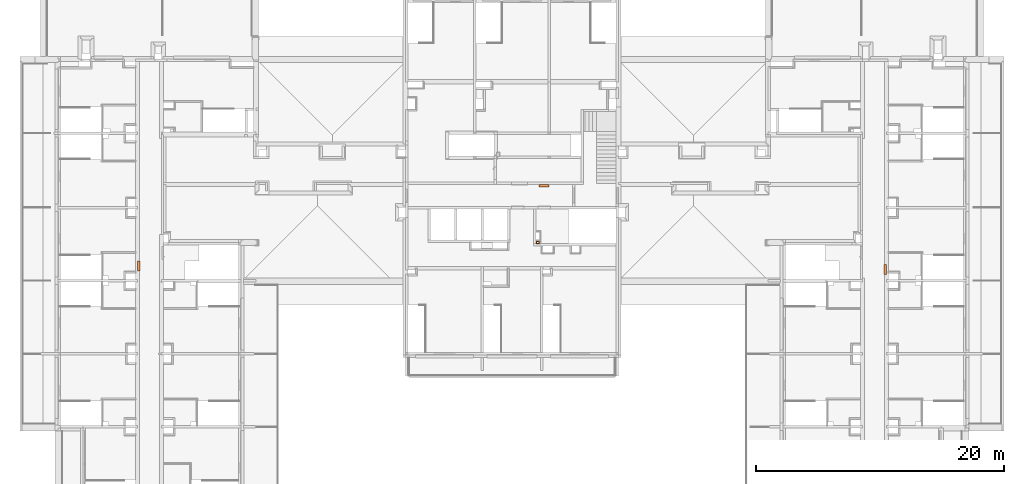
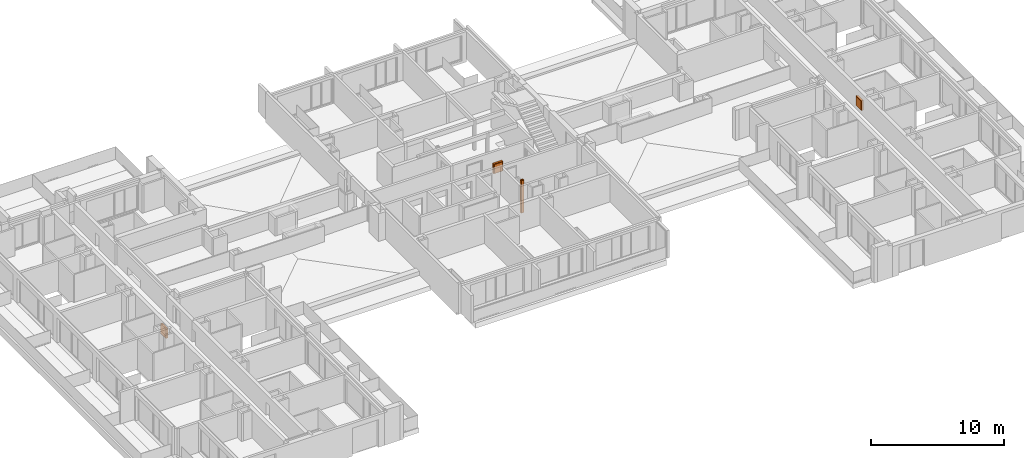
# One storey, part 11 of 30: 4 proxies.
"""IFC2X3 building model written with IfcOpenShell, lengths in millimetres."""

import ifcopenshell
import ifcopenshell.guid

model = None  # the IFC model being written
_history = None  # IfcOwnerHistory: only IFC2X3 demands one
_inside = {}  # id of a spatial element -> (the spatial element, [elements in it])
_under = {}  # id of a project, library or spatial element -> (it, [spatial elements below it])
_declared = {}  # id of a project -> (the project, [libraries it declares])
_typed = {}  # id of a type object -> (the type object, [elements of that type])
_made_of = {}  # id of a material, layer set ... -> (it, [elements and type objects made of it])


def new_model(schema):
    """Start an empty IFC model of exactly this schema.

    Asked for "IFC4X3", IfcOpenShell would pick the latest addendum, in which some entities
    have other attributes; the version numbers below select the first issue.
    IFC2X3 requires an IfcOwnerHistory on every rooted entity: one is made here for all.
    """
    global model, _history
    if schema == "IFC4X3":
        model = ifcopenshell.file(schema_version=(4, 3, 0, 0))
    else:
        model = ifcopenshell.file(schema=schema)
    _inside.clear()
    _under.clear()
    _declared.clear()
    _typed.clear()
    _made_of.clear()
    _history = None
    if model.schema == "IFC2X3":
        org = make("IfcOrganization", Name="unknown")
        user = make(
            "IfcPersonAndOrganization",
            ThePerson=make("IfcPerson", FamilyName="unknown"),
            TheOrganization=org,
        )
        app = make(
            "IfcApplication",
            ApplicationDeveloper=org,
            Version="unknown",
            ApplicationFullName="unknown",
            ApplicationIdentifier="unknown",
        )
        _history = make(
            "IfcOwnerHistory",
            OwningUser=user,
            OwningApplication=app,
            ChangeAction="ADDED",
            CreationDate=0,
        )
    return model


def make(cls, **values):
    """One entity of the class cls with the attributes given. An attribute that is None is left unset."""
    return model.create_entity(
        cls, **{name: value for name, value in values.items() if value is not None}
    )


def entity(cls, *values):
    """Any entity or typed value of the class cls, its attributes in the order of the schema. None: left unset."""
    e = model.create_entity(cls)
    for i, value in enumerate(values):
        if value is not None:
            e[i] = value
    return e


def rooted(cls, **values):
    """An entity with a GlobalId (a new one), such as an element, a storey or a relation."""
    return make(cls, GlobalId=ifcopenshell.guid.new(), OwnerHistory=_history, **values)


def si_unit(unit_type, name, prefix=None):
    """IfcSIUnit, for example si_unit("LENGTHUNIT", "METRE", prefix="MILLI")."""
    return make("IfcSIUnit", UnitType=unit_type, Prefix=prefix, Name=name)


def converted_unit(unit_type, name, factor, base, dimensions=None, offset=None):
    """IfcConversionBasedUnit, such as the inch: factor (a typed value) times the base unit."""
    return make(
        "IfcConversionBasedUnit"
        if offset is None
        else "IfcConversionBasedUnitWithOffset",
        ConversionOffset=offset,
        Dimensions=None
        if dimensions is None
        else entity("IfcDimensionalExponents", *dimensions),
        UnitType=unit_type,
        Name=name,
        ConversionFactor=make(
            "IfcMeasureWithUnit", ValueComponent=factor, UnitComponent=base
        ),
    )


def derived_unit(unit_type, elements):
    """IfcDerivedUnit: a product of units, each with its exponent."""
    return make(
        "IfcDerivedUnit",
        Elements=[
            make("IfcDerivedUnitElement", Unit=unit, Exponent=power)
            for unit, power in elements
        ],
        UnitType=unit_type,
    )


def money_unit(currency):
    """IfcMonetaryUnit."""
    return make("IfcMonetaryUnit", Currency=currency)


def assignment(units):
    """IfcUnitAssignment: the units of a project."""
    return None if units is None else make("IfcUnitAssignment", Units=units)


def point(xyz):
    """IfcCartesianPoint."""
    return None if xyz is None else make("IfcCartesianPoint", Coordinates=xyz)


def direction(xyz):
    """IfcDirection."""
    return None if xyz is None else make("IfcDirection", DirectionRatios=xyz)


def frame(location, z_axis=None, x_axis=None):
    """IfcAxis2Placement3D, a coordinate frame: its origin and axes. An axis left out is left unset."""
    return make(
        "IfcAxis2Placement3D",
        Location=point(location),
        Axis=direction(z_axis),
        RefDirection=direction(x_axis),
    )


def origin_with_axes():
    """The frame at (0, 0, 0) with the z axis (0, 0, 1) and the x axis (1, 0, 0) written out."""
    return frame((0.0, 0.0, 0.0), z_axis=(0.0, 0.0, 1.0), x_axis=(1.0, 0.0, 0.0))


def place(relative_to, where):
    """IfcLocalPlacement: puts the frame where relative to a parent placement (None: the world)."""
    return make(
        "IfcLocalPlacement", PlacementRelTo=relative_to, RelativePlacement=where
    )


def context(
    kind, dimensions, precision=None, world=None, true_north=None, identifier=None
):
    """IfcGeometricRepresentationContext, for example the 3D "Model" context."""
    return make(
        "IfcGeometricRepresentationContext",
        ContextIdentifier=identifier,
        ContextType=kind,
        CoordinateSpaceDimension=dimensions,
        Precision=precision,
        WorldCoordinateSystem=world,
        TrueNorth=true_north,
    )


def subcontext(parent, identifier, kind, view, scale=None):
    """IfcGeometricRepresentationSubContext, for example "Body" below "Model"."""
    return make(
        "IfcGeometricRepresentationSubContext",
        ContextIdentifier=identifier,
        ContextType=kind,
        ParentContext=parent,
        TargetScale=scale,
        TargetView=view,
    )


def project(units=None, contexts=None):
    """IfcProject with its units and contexts."""
    return rooted(
        "IfcProject",
        Name="project",
        RepresentationContexts=contexts,
        UnitsInContext=assignment(units),
    )


def spatial(cls, under=None, at=None, **own):
    """A site, building, storey or space (cls), placed at a placement, below another one or the project."""
    s = rooted(cls, ObjectPlacement=at, **own)
    if under is not None:
        _under.setdefault(under.id(), (under, []))[1].append(s)
    return s


def faces_of(points, faces, orient=None, outer=None):
    """IfcFace entities. A face is a list of loops; a loop is a list of indices into points, from 0.

    orient and outer hold one flag for each loop. By default every Orientation is true, the
    first loop of a face is its IfcFaceOuterBound and the others are IfcFaceBound.
    """
    made = []
    for i, loops in enumerate(faces):
        bounds = []
        for j, loop in enumerate(loops):
            is_outer = j == 0 if outer is None else outer[i][j]
            bounds.append(
                make(
                    "IfcFaceOuterBound" if is_outer else "IfcFaceBound",
                    Bound=make("IfcPolyLoop", Polygon=[points[k] for k in loop]),
                    Orientation=True if orient is None else orient[i][j],
                )
            )
        made.append(make("IfcFace", Bounds=bounds))
    return made


def faceted_brep(points, faces, orient=None, outer=None, voids=None):
    """IfcFacetedBrep: a solid bounded by flat faces; with voids (closed shells), ...WithVoids."""
    shared = [point(p) for p in points]
    hull = make("IfcClosedShell", CfsFaces=faces_of(shared, faces, orient, outer))
    if voids is None:
        return make("IfcFacetedBrep", Outer=hull)
    return make(
        "IfcFacetedBrepWithVoids",
        Outer=hull,
        Voids=[
            make(cls, CfsFaces=faces_of(shared, fs, o, b)) for cls, fs, o, b in voids
        ],
    )


def shape(context_of_items, identifier, shape_type, items):
    """IfcShapeRepresentation: the items that make up one representation, for example the "Body"."""
    return make(
        "IfcShapeRepresentation",
        ContextOfItems=context_of_items,
        RepresentationIdentifier=identifier,
        RepresentationType=shape_type,
        Items=items,
    )


def source(mapping_origin, context_of_items, identifier, shape_type, items):
    """IfcRepresentationMap: a shape defined once, which mapped items show again and again."""
    return make(
        "IfcRepresentationMap",
        MappingOrigin=mapping_origin,
        MappedRepresentation=shape(context_of_items, identifier, shape_type, items),
    )


def transform(
    local_origin,
    x_axis=None,
    y_axis=None,
    z_axis=None,
    scale=None,
    scale2=None,
    scale3=None,
    uniform=True,
):
    """IfcCartesianTransformationOperator3D, or its non-uniform kind. x_axis, y_axis, z_axis: its Axis1, 2, 3."""
    if uniform:
        return make(
            "IfcCartesianTransformationOperator3D",
            Axis1=direction(x_axis),
            Axis2=direction(y_axis),
            LocalOrigin=point(local_origin),
            Scale=scale,
            Axis3=direction(z_axis),
        )
    return make(
        "IfcCartesianTransformationOperator3DnonUniform",
        Axis1=direction(x_axis),
        Axis2=direction(y_axis),
        LocalOrigin=point(local_origin),
        Scale=scale,
        Axis3=direction(z_axis),
        Scale2=scale2,
        Scale3=scale3,
    )


def mapped(mapping_source, mapping_target):
    """IfcMappedItem: shows the shape of a source again, moved by a transform."""
    return make(
        "IfcMappedItem", MappingSource=mapping_source, MappingTarget=mapping_target
    )


def made_of(thing, what):
    """Note that an element or type object is made of a material, layer set ...; save() writes the relation."""
    if what is not None:
        _made_of.setdefault(what.id(), (what, []))[1].append(thing)
    return thing


def type_object(cls, material=None, **own):
    """A type object (cls), such as IfcWallType, which elements share."""
    return made_of(rooted(cls, **own), material)


def element(
    cls,
    number,
    at=None,
    inside=None,
    cuts=None,
    type_object=None,
    material=None,
    context=None,
    identifier="Body",
    shape_type=None,
    held_by="IfcProductDefinitionShape",
    body=None,
    shapes=None,
    **own,
):
    """One element of the class cls, such as IfcWall. Its Tag is "e" and its number.

    at: its placement. inside: the storey or other place that contains it. cuts: it is an
    opening in that element (IfcRelVoidsElement). A single representation is given by context,
    identifier, shape_type and body (its items); several are given by shapes. held_by: the class
    of the entity that holds the representations. save() writes the other relations.
    """
    e = rooted(cls, Tag="e%d" % number, ObjectPlacement=at, **own)
    if body is not None:
        shapes = [shape(context, identifier, shape_type, body)]
    if shapes is not None:
        e.Representation = make(held_by, Representations=shapes)
    if inside is not None:
        _inside.setdefault(inside.id(), (inside, []))[1].append(e)
    if cuts is not None:
        rooted(
            "IfcRelVoidsElement", RelatingBuildingElement=cuts, RelatedOpeningElement=e
        )
    if type_object is not None:
        _typed.setdefault(type_object.id(), (type_object, []))[1].append(e)
    return made_of(e, material)


def aggregate(whole, parts):
    """IfcRelAggregates: a whole, such as a stair, and the parts it consists of."""
    return rooted("IfcRelAggregates", RelatingObject=whole, RelatedObjects=parts)


def save(model, path):
    """Write the relations noted so far, then the file.

    IfcRelAggregates (storeys below a building ...), IfcRelContainedInSpatialStructure (elements
    in a storey), IfcRelDefinesByType, IfcRelAssociatesMaterial and IfcRelDeclares: one each for
    every whole, place, type object, material and project.
    """
    for whole, parts in _under.values():
        aggregate(whole, parts)
    for where, things in _inside.values():
        rooted(
            "IfcRelContainedInSpatialStructure",
            RelatedElements=things,
            RelatingStructure=where,
        )
    for kind, things in _typed.values():
        rooted("IfcRelDefinesByType", RelatedObjects=things, RelatingType=kind)
    for what, things in _made_of.values():
        rooted("IfcRelAssociatesMaterial", RelatedObjects=things, RelatingMaterial=what)
    for by, libraries in _declared.values():
        rooted("IfcRelDeclares", RelatingContext=by, RelatedDefinitions=libraries)
    model.write(path)


model = new_model("IFC2X3")

# Units and contexts
model_context = context("Model", 3, precision=0.01, world=origin_with_axes(), true_north=direction((0.34421633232, 0.938890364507)))
body_context = subcontext(model_context, "Body", "Model", "MODEL_VIEW")
ifc_project = project(units=[si_unit("LENGTHUNIT", "METRE", prefix="MILLI"), si_unit("AREAUNIT", "SQUARE_METRE"), si_unit("VOLUMEUNIT", "CUBIC_METRE"), converted_unit("PLANEANGLEUNIT", "DEGREE", entity("IfcPlaneAngleMeasure", 0.0174532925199), si_unit("PLANEANGLEUNIT", "RADIAN"), dimensions=[0, 0, 0, 0, 0, 0, 0]), si_unit("SOLIDANGLEUNIT", "STERADIAN"), money_unit("USD"), converted_unit("TIMEUNIT", "Year", entity("IfcTimeMeasure", 31556926.0), si_unit("TIMEUNIT", "SECOND"), dimensions=[0, 0, 1, 0, 0, 0, 0]), si_unit("MASSUNIT", "GRAM", prefix="KILO"), si_unit("THERMODYNAMICTEMPERATUREUNIT", "DEGREE_CELSIUS"), si_unit("LUMINOUSINTENSITYUNIT", "LUMEN"), si_unit("ENERGYUNIT", "JOULE", prefix="MEGA"), derived_unit("THERMALCONDUCTANCEUNIT", [(si_unit("POWERUNIT", "WATT"), 1), (si_unit("LENGTHUNIT", "METRE"), -1), (si_unit("THERMODYNAMICTEMPERATUREUNIT", "KELVIN"), -1)]), derived_unit("SPECIFICHEATCAPACITYUNIT", [(si_unit("ENERGYUNIT", "JOULE"), 1), (si_unit("MASSUNIT", "GRAM", prefix="KILO"), -1), (si_unit("THERMODYNAMICTEMPERATUREUNIT", "KELVIN"), -1)]), derived_unit("MASSDENSITYUNIT", [(si_unit("MASSUNIT", "GRAM", prefix="KILO"), 1), (si_unit("VOLUMEUNIT", "CUBIC_METRE"), -1)])], contexts=[model_context])

# Site, building, storey
site_placement = place(None, origin_with_axes())
site = spatial("IfcSite", under=ifc_project, at=site_placement, Name="USTRONIE MORSKIE", CompositionType="ELEMENT")
building_placement = place(site_placement, origin_with_axes())
building = spatial("IfcBuilding", under=site, at=building_placement, Name="Budynek", CompositionType="ELEMENT")
storey_placement = place(building_placement, frame((0.0, 0.0, 16000.0), z_axis=(0.0, 0.0, 1.0), x_axis=(1.0, 0.0, 0.0)))
storey = spatial("IfcBuildingStorey", under=building, at=storey_placement, Name="ANTRESOLA - KOND. TECHNICZNA", CompositionType="ELEMENT", Elevation=16000.0)

# Proxies
building_element_proxy_type_1 = type_object("IfcBuildingElementProxyType", PredefinedType="NOTDEFINED")
shared_shape_1 = source(origin_with_axes(), body_context, "Body", "Brep", [
    faceted_brep([(0.0, 0.0, 0.0), (200.0, 0.0, 0.0), (200.0, 0.0, 2970.0), (0.0, 0.0, 2970.0), (0.0, 250.0, 0.0), (200.0, 250.0, 0.0), (40.0, 210.0, 0.0), (40.0, 40.0, 0.0), (160.0, 40.0, 0.0), (160.0, 210.0, 0.0), (200.0, 250.0, 2970.0), (0.0, 250.0, 2970.0), (40.0, 210.0, 2970.0), (160.0, 210.0, 2970.0), (160.0, 40.0, 2970.0), (40.0, 40.0, 2970.0)], [[[0, 1, 2, 3]], [[0, 4, 5, 1], [6, 7, 8, 9]], [[1, 5, 10, 2]], [[3, 2, 10, 11], [12, 13, 14, 15]], [[4, 0, 3, 11]], [[5, 4, 11, 10]], [[7, 6, 12, 15]], [[8, 7, 15, 14]], [[9, 8, 14, 13]], [[6, 9, 13, 12]]]),
])
proxy_1_placement = place(storey_placement, frame((389757.920919, 730101.199036, 0.0), z_axis=(0.0, 0.0, 1.0), x_axis=(0.0, -1.0, 0.0)))
element("IfcBuildingElementProxy", 1, at=proxy_1_placement, inside=storey, type_object=building_element_proxy_type_1, Name="Obiekt-007", context=body_context, shape_type="MappedRepresentation", body=[
    mapped(shared_shape_1, transform((0.0, 0.0, 0.0))),
])
building_element_proxy_type_2 = type_object("IfcBuildingElementProxyType", Name="Skrzynka P-Poż 23", PredefinedType="NOTDEFINED")
shared_shape_2 = source(origin_with_axes(), body_context, "Body", "Brep", [
    faceted_brep([(0.0, 40.0, 0.0), (800.0, 40.0, 0.0), (800.0, 20.0, 0.0), (0.0, 20.0, 0.0), (0.0, 40.0, 900.0), (800.0, 40.0, 900.0), (60.0, 40.0, 60.0), (740.0, 40.0, 60.0), (740.0, 40.0, 840.0), (60.0, 40.0, 840.0), (800.0, 20.0, 900.0), (0.0, 20.0, 900.0), (60.0, 20.0, 60.0), (60.0, 20.0, 840.0), (740.0, 20.0, 840.0), (740.0, 20.0, 60.0)], [[[0, 1, 2, 3]], [[0, 4, 5, 1], [6, 7, 8, 9]], [[1, 5, 10, 2]], [[3, 2, 10, 11], [12, 13, 14, 15]], [[4, 0, 3, 11]], [[5, 4, 11, 10]], [[7, 6, 12, 15]], [[8, 7, 15, 14]], [[9, 8, 14, 13]], [[6, 9, 13, 12]]]),
    faceted_brep([(40.0, 20.0, 40.0), (760.0, 20.0, 40.0), (760.0, 0.0, 40.0), (40.0, 0.0, 40.0), (40.0, 20.0, 860.0), (760.0, 20.0, 860.0), (80.0, 20.0, 80.0), (720.0, 20.0, 80.0), (720.0, 20.0, 820.0), (80.0, 20.0, 820.0), (760.0, 0.0, 860.0), (40.0, 0.0, 860.0), (80.0, 0.0, 80.0), (80.0, 0.0, 820.0), (720.0, 0.0, 820.0), (720.0, 0.0, 80.0)], [[[0, 1, 2, 3]], [[0, 4, 5, 1], [6, 7, 8, 9]], [[1, 5, 10, 2]], [[3, 2, 10, 11], [12, 13, 14, 15]], [[4, 0, 3, 11]], [[5, 4, 11, 10]], [[7, 6, 12, 15]], [[8, 7, 15, 14]], [[9, 8, 14, 13]], [[6, 9, 13, 12]]]),
    faceted_brep([(0.0, 180.0, 0.0), (800.0, 180.0, 0.0), (800.0, 40.0, 0.0), (0.0, 40.0, 0.0), (0.0, 180.0, 900.0), (800.0, 180.0, 900.0), (20.0, 180.0, 20.0), (780.0, 180.0, 20.0), (780.0, 180.0, 880.0), (20.0, 180.0, 880.0), (800.0, 40.0, 900.0), (0.0, 40.0, 900.0), (20.0, 40.0, 20.0), (20.0, 40.0, 880.0), (780.0, 40.0, 880.0), (780.0, 40.0, 20.0)], [[[0, 1, 2, 3]], [[0, 4, 5, 1], [6, 7, 8, 9]], [[1, 5, 10, 2]], [[3, 2, 10, 11], [12, 13, 14, 15]], [[4, 0, 3, 11]], [[5, 4, 11, 10]], [[7, 6, 12, 15]], [[8, 7, 15, 14]], [[9, 8, 14, 13]], [[6, 9, 13, 12]]]),
    faceted_brep([(0.0, 200.0, 0.0), (800.0, 200.0, 0.0), (800.0, 180.0, 0.0), (0.0, 180.0, 0.0), (0.0, 200.0, 900.0), (800.0, 200.0, 900.0), (800.0, 180.0, 900.0), (0.0, 180.0, 900.0)], [[[0, 1, 2, 3]], [[0, 4, 5, 1]], [[1, 5, 6, 2]], [[3, 2, 6, 7]], [[4, 0, 3, 7]], [[5, 4, 7, 6]]]),
    faceted_brep([(80.0, 15.0, 80.0), (720.0, 15.0, 80.0), (720.0, 5.0, 80.0), (80.0, 5.0, 80.0), (80.0, 15.0, 820.0), (720.0, 15.0, 820.0), (720.0, 5.0, 820.0), (80.0, 5.0, 820.0)], [[[0, 1, 2, 3]], [[0, 4, 5, 1]], [[1, 5, 6, 2]], [[3, 2, 6, 7]], [[4, 0, 3, 7]], [[5, 4, 7, 6]]]),
    faceted_brep([(749.659258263, 0.0, 447.411809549), (748.660254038, 0.0, 445.0), (747.071067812, 0.0, 442.928932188), (745.0, 0.0, 441.339745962), (742.588190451, 0.0, 440.340741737), (740.0, 0.0, 440.0), (737.411809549, 0.0, 440.340741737), (735.0, 0.0, 441.339745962), (732.928932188, 0.0, 442.928932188), (731.339745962, 0.0, 445.0), (730.340741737, 0.0, 447.411809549), (730.0, 0.0, 450.0), (730.340741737, 0.0, 452.588190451), (731.339745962, 0.0, 455.0), (732.928932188, 0.0, 457.071067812), (735.0, 0.0, 458.660254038), (737.411809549, 0.0, 459.659258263), (740.0, 0.0, 460.0), (742.588190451, 0.0, 459.659258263), (745.0, 0.0, 458.660254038), (747.071067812, 0.0, 457.071067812), (748.660254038, 0.0, 455.0), (749.659258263, 0.0, 452.588190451), (750.0, 0.0, 450.0), (749.659258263, -2.0, 447.411809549), (748.660254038, -2.0, 445.0), (747.071067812, -2.0, 442.928932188), (745.0, -2.0, 441.339745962), (742.588190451, -2.0, 440.340741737), (740.0, -2.0, 440.0), (737.411809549, -2.0, 440.340741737), (735.0, -2.0, 441.339745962), (732.928932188, -2.0, 442.928932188), (731.339745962, -2.0, 445.0), (730.340741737, -2.0, 447.411809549), (730.0, -2.0, 450.0), (730.340741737, -2.0, 452.588190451), (731.339745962, -2.0, 455.0), (732.928932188, -2.0, 457.071067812), (735.0, -2.0, 458.660254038), (737.411809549, -2.0, 459.659258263), (740.0, -2.0, 460.0), (742.588190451, -2.0, 459.659258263), (745.0, -2.0, 458.660254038), (747.071067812, -2.0, 457.071067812), (748.660254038, -2.0, 455.0), (749.659258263, -2.0, 452.588190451), (750.0, -2.0, 450.0)], [[[0, 1, 2, 3, 4, 5, 6, 7, 8, 9, 10, 11, 12, 13, 14, 15, 16, 17, 18, 19, 20, 21, 22, 23]], [[1, 0, 24, 25]], [[2, 1, 25, 26]], [[3, 2, 26, 27]], [[4, 3, 27, 28]], [[5, 4, 28, 29]], [[6, 5, 29, 30]], [[7, 6, 30, 31]], [[8, 7, 31, 32]], [[9, 8, 32, 33]], [[10, 9, 33, 34]], [[11, 10, 34, 35]], [[12, 11, 35, 36]], [[13, 12, 36, 37]], [[14, 13, 37, 38]], [[15, 14, 38, 39]], [[16, 15, 39, 40]], [[17, 16, 40, 41]], [[18, 17, 41, 42]], [[19, 18, 42, 43]], [[20, 19, 43, 44]], [[21, 20, 44, 45]], [[22, 21, 45, 46]], [[23, 22, 46, 47]], [[0, 23, 47, 24]], [[24, 47, 46, 45, 44, 43, 42, 41, 40, 39, 38, 37, 36, 35, 34, 33, 32, 31, 30, 29, 28, 27, 26, 25]]]),
    faceted_brep([(39.8977774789, 16.2235428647, 80.0), (39.5980762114, 15.5, 80.0), (39.1213203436, 14.8786796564, 80.0), (38.5, 14.4019237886, 80.0), (37.7764571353, 14.1022225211, 80.0), (37.0, 14.0, 80.0), (36.2235428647, 14.1022225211, 80.0), (35.5, 14.4019237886, 80.0), (34.8786796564, 14.8786796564, 80.0), (34.4019237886, 15.5, 80.0), (34.1022225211, 16.2235428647, 80.0), (34.0, 17.0, 80.0), (34.1022225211, 17.7764571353, 80.0), (34.4019237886, 18.5, 80.0), (34.8786796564, 19.1213203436, 80.0), (35.5, 19.5980762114, 80.0), (36.2235428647, 19.8977774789, 80.0), (37.0, 20.0, 80.0), (37.7764571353, 19.8977774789, 80.0), (38.5, 19.5980762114, 80.0), (39.1213203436, 19.1213203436, 80.0), (39.5980762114, 18.5, 80.0), (39.8977774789, 17.7764571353, 80.0), (40.0, 17.0, 80.0), (39.8977774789, 16.2235428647, 120.0), (39.5980762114, 15.5, 120.0), (39.1213203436, 14.8786796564, 120.0), (38.5, 14.4019237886, 120.0), (37.7764571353, 14.1022225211, 120.0), (37.0, 14.0, 120.0), (36.2235428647, 14.1022225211, 120.0), (35.5, 14.4019237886, 120.0), (34.8786796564, 14.8786796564, 120.0), (34.4019237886, 15.5, 120.0), (34.1022225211, 16.2235428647, 120.0), (34.0, 17.0, 120.0), (34.1022225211, 17.7764571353, 120.0), (34.4019237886, 18.5, 120.0), (34.8786796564, 19.1213203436, 120.0), (35.5, 19.5980762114, 120.0), (36.2235428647, 19.8977774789, 120.0), (37.0, 20.0, 120.0), (37.7764571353, 19.8977774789, 120.0), (38.5, 19.5980762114, 120.0), (39.1213203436, 19.1213203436, 120.0), (39.5980762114, 18.5, 120.0), (39.8977774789, 17.7764571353, 120.0), (40.0, 17.0, 120.0)], [[[0, 1, 2, 3, 4, 5, 6, 7, 8, 9, 10, 11, 12, 13, 14, 15, 16, 17, 18, 19, 20, 21, 22, 23]], [[1, 0, 24, 25]], [[2, 1, 25, 26]], [[3, 2, 26, 27]], [[4, 3, 27, 28]], [[5, 4, 28, 29]], [[6, 5, 29, 30]], [[7, 6, 30, 31]], [[8, 7, 31, 32]], [[9, 8, 32, 33]], [[10, 9, 33, 34]], [[11, 10, 34, 35]], [[12, 11, 35, 36]], [[13, 12, 36, 37]], [[14, 13, 37, 38]], [[15, 14, 38, 39]], [[16, 15, 39, 40]], [[17, 16, 40, 41]], [[18, 17, 41, 42]], [[19, 18, 42, 43]], [[20, 19, 43, 44]], [[21, 20, 44, 45]], [[22, 21, 45, 46]], [[23, 22, 46, 47]], [[0, 23, 47, 24]], [[24, 47, 46, 45, 44, 43, 42, 41, 40, 39, 38, 37, 36, 35, 34, 33, 32, 31, 30, 29, 28, 27, 26, 25]]]),
    faceted_brep([(39.8977774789, 16.2235428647, 780.0), (39.5980762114, 15.5, 780.0), (39.1213203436, 14.8786796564, 780.0), (38.5, 14.4019237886, 780.0), (37.7764571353, 14.1022225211, 780.0), (37.0, 14.0, 780.0), (36.2235428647, 14.1022225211, 780.0), (35.5, 14.4019237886, 780.0), (34.8786796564, 14.8786796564, 780.0), (34.4019237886, 15.5, 780.0), (34.1022225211, 16.2235428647, 780.0), (34.0, 17.0, 780.0), (34.1022225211, 17.7764571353, 780.0), (34.4019237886, 18.5, 780.0), (34.8786796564, 19.1213203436, 780.0), (35.5, 19.5980762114, 780.0), (36.2235428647, 19.8977774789, 780.0), (37.0, 20.0, 780.0), (37.7764571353, 19.8977774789, 780.0), (38.5, 19.5980762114, 780.0), (39.1213203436, 19.1213203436, 780.0), (39.5980762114, 18.5, 780.0), (39.8977774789, 17.7764571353, 780.0), (40.0, 17.0, 780.0), (39.8977774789, 16.2235428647, 820.0), (39.5980762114, 15.5, 820.0), (39.1213203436, 14.8786796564, 820.0), (38.5, 14.4019237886, 820.0), (37.7764571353, 14.1022225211, 820.0), (37.0, 14.0, 820.0), (36.2235428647, 14.1022225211, 820.0), (35.5, 14.4019237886, 820.0), (34.8786796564, 14.8786796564, 820.0), (34.4019237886, 15.5, 820.0), (34.1022225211, 16.2235428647, 820.0), (34.0, 17.0, 820.0), (34.1022225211, 17.7764571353, 820.0), (34.4019237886, 18.5, 820.0), (34.8786796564, 19.1213203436, 820.0), (35.5, 19.5980762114, 820.0), (36.2235428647, 19.8977774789, 820.0), (37.0, 20.0, 820.0), (37.7764571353, 19.8977774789, 820.0), (38.5, 19.5980762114, 820.0), (39.1213203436, 19.1213203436, 820.0), (39.5980762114, 18.5, 820.0), (39.8977774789, 17.7764571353, 820.0), (40.0, 17.0, 820.0)], [[[0, 1, 2, 3, 4, 5, 6, 7, 8, 9, 10, 11, 12, 13, 14, 15, 16, 17, 18, 19, 20, 21, 22, 23]], [[1, 0, 24, 25]], [[2, 1, 25, 26]], [[3, 2, 26, 27]], [[4, 3, 27, 28]], [[5, 4, 28, 29]], [[6, 5, 29, 30]], [[7, 6, 30, 31]], [[8, 7, 31, 32]], [[9, 8, 32, 33]], [[10, 9, 33, 34]], [[11, 10, 34, 35]], [[12, 11, 35, 36]], [[13, 12, 36, 37]], [[14, 13, 37, 38]], [[15, 14, 38, 39]], [[16, 15, 39, 40]], [[17, 16, 40, 41]], [[18, 17, 41, 42]], [[19, 18, 42, 43]], [[20, 19, 43, 44]], [[21, 20, 44, 45]], [[22, 21, 45, 46]], [[23, 22, 46, 47]], [[0, 23, 47, 24]], [[24, 47, 46, 45, 44, 43, 42, 41, 40, 39, 38, 37, 36, 35, 34, 33, 32, 31, 30, 29, 28, 27, 26, 25]]]),
])
proxy_2_placement = place(storey_placement, frame((417817.920919, 728201.202998, 1100.0), z_axis=(0.0, 0.0, 1.0), x_axis=(0.0, -1.0, 0.0)))
element("IfcBuildingElementProxy", 2, at=proxy_2_placement, inside=storey, type_object=building_element_proxy_type_2, Name="OB3", context=body_context, shape_type="MappedRepresentation", body=[
    mapped(shared_shape_2, transform((0.0, 0.0, 0.0))),
])
shared_shape_3 = source(origin_with_axes(), body_context, "Body", "Brep", [
    faceted_brep([(0.0, 40.0, 0.0), (0.0, 20.0, 0.0), (-800.0, 20.0, 0.0), (-800.0, 40.0, 0.0), (0.0, 40.0, 900.0), (0.0, 20.0, 900.0), (-800.0, 20.0, 900.0), (-60.0, 20.0, 60.0), (-740.0, 20.0, 60.0), (-740.0, 20.0, 840.0), (-60.0, 20.0, 840.0), (-800.0, 40.0, 900.0), (-60.0, 40.0, 60.0), (-60.0, 40.0, 840.0), (-740.0, 40.0, 840.0), (-740.0, 40.0, 60.0)], [[[0, 1, 2, 3]], [[4, 5, 1, 0]], [[1, 5, 6, 2], [7, 8, 9, 10]], [[3, 2, 6, 11]], [[0, 3, 11, 4], [12, 13, 14, 15]], [[11, 6, 5, 4]], [[15, 8, 7, 12]], [[14, 9, 8, 15]], [[13, 10, 9, 14]], [[12, 7, 10, 13]]]),
    faceted_brep([(-40.0, 20.0, 40.0), (-40.0, 0.0, 40.0), (-760.0, 0.0, 40.0), (-760.0, 20.0, 40.0), (-40.0, 20.0, 860.0), (-40.0, 0.0, 860.0), (-760.0, 0.0, 860.0), (-80.0, 0.0, 80.0), (-720.0, 0.0, 80.0), (-720.0, 0.0, 820.0), (-80.0, 0.0, 820.0), (-760.0, 20.0, 860.0), (-80.0, 20.0, 80.0), (-80.0, 20.0, 820.0), (-720.0, 20.0, 820.0), (-720.0, 20.0, 80.0)], [[[0, 1, 2, 3]], [[4, 5, 1, 0]], [[1, 5, 6, 2], [7, 8, 9, 10]], [[3, 2, 6, 11]], [[0, 3, 11, 4], [12, 13, 14, 15]], [[11, 6, 5, 4]], [[15, 8, 7, 12]], [[14, 9, 8, 15]], [[13, 10, 9, 14]], [[12, 7, 10, 13]]]),
    faceted_brep([(0.0, 180.0, 0.0), (0.0, 40.0, 0.0), (-800.0, 40.0, 0.0), (-800.0, 180.0, 0.0), (0.0, 180.0, 900.0), (0.0, 40.0, 900.0), (-800.0, 40.0, 900.0), (-20.0, 40.0, 20.0), (-780.0, 40.0, 20.0), (-780.0, 40.0, 880.0), (-20.0, 40.0, 880.0), (-800.0, 180.0, 900.0), (-20.0, 180.0, 20.0), (-20.0, 180.0, 880.0), (-780.0, 180.0, 880.0), (-780.0, 180.0, 20.0)], [[[0, 1, 2, 3]], [[4, 5, 1, 0]], [[1, 5, 6, 2], [7, 8, 9, 10]], [[3, 2, 6, 11]], [[0, 3, 11, 4], [12, 13, 14, 15]], [[11, 6, 5, 4]], [[15, 8, 7, 12]], [[14, 9, 8, 15]], [[13, 10, 9, 14]], [[12, 7, 10, 13]]]),
    faceted_brep([(0.0, 200.0, 0.0), (0.0, 180.0, 0.0), (-800.0, 180.0, 0.0), (-800.0, 200.0, 0.0), (0.0, 200.0, 900.0), (0.0, 180.0, 900.0), (-800.0, 180.0, 900.0), (-800.0, 200.0, 900.0)], [[[0, 1, 2, 3]], [[4, 5, 1, 0]], [[1, 5, 6, 2]], [[3, 2, 6, 7]], [[0, 3, 7, 4]], [[7, 6, 5, 4]]]),
    faceted_brep([(-80.0, 15.0, 80.0), (-80.0, 5.0, 80.0), (-720.0, 5.0, 80.0), (-720.0, 15.0, 80.0), (-80.0, 15.0, 820.0), (-80.0, 5.0, 820.0), (-720.0, 5.0, 820.0), (-720.0, 15.0, 820.0)], [[[0, 1, 2, 3]], [[4, 5, 1, 0]], [[1, 5, 6, 2]], [[3, 2, 6, 7]], [[0, 3, 7, 4]], [[7, 6, 5, 4]]]),
    faceted_brep([(-749.659258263, 0.0, 447.411809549), (-750.0, 0.0, 450.0), (-749.659258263, 0.0, 452.588190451), (-748.660254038, 0.0, 455.0), (-747.071067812, 0.0, 457.071067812), (-745.0, 0.0, 458.660254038), (-742.588190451, 0.0, 459.659258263), (-740.0, 0.0, 460.0), (-737.411809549, 0.0, 459.659258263), (-735.0, 0.0, 458.660254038), (-732.928932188, 0.0, 457.071067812), (-731.339745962, 0.0, 455.0), (-730.340741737, 0.0, 452.588190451), (-730.0, 0.0, 450.0), (-730.340741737, 0.0, 447.411809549), (-731.339745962, 0.0, 445.0), (-732.928932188, 0.0, 442.928932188), (-735.0, 0.0, 441.339745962), (-737.411809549, 0.0, 440.340741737), (-740.0, 0.0, 440.0), (-742.588190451, 0.0, 440.340741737), (-745.0, 0.0, 441.339745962), (-747.071067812, 0.0, 442.928932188), (-748.660254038, 0.0, 445.0), (-749.659258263, -2.0, 447.411809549), (-750.0, -2.0, 450.0), (-749.659258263, -2.0, 452.588190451), (-748.660254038, -2.0, 455.0), (-747.071067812, -2.0, 457.071067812), (-745.0, -2.0, 458.660254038), (-742.588190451, -2.0, 459.659258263), (-740.0, -2.0, 460.0), (-737.411809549, -2.0, 459.659258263), (-735.0, -2.0, 458.660254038), (-732.928932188, -2.0, 457.071067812), (-731.339745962, -2.0, 455.0), (-730.340741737, -2.0, 452.588190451), (-730.0, -2.0, 450.0), (-730.340741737, -2.0, 447.411809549), (-731.339745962, -2.0, 445.0), (-732.928932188, -2.0, 442.928932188), (-735.0, -2.0, 441.339745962), (-737.411809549, -2.0, 440.340741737), (-740.0, -2.0, 440.0), (-742.588190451, -2.0, 440.340741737), (-745.0, -2.0, 441.339745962), (-747.071067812, -2.0, 442.928932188), (-748.660254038, -2.0, 445.0)], [[[0, 1, 2, 3, 4, 5, 6, 7, 8, 9, 10, 11, 12, 13, 14, 15, 16, 17, 18, 19, 20, 21, 22, 23]], [[0, 24, 25, 1]], [[1, 25, 26, 2]], [[2, 26, 27, 3]], [[3, 27, 28, 4]], [[4, 28, 29, 5]], [[5, 29, 30, 6]], [[6, 30, 31, 7]], [[7, 31, 32, 8]], [[8, 32, 33, 9]], [[9, 33, 34, 10]], [[10, 34, 35, 11]], [[11, 35, 36, 12]], [[12, 36, 37, 13]], [[13, 37, 38, 14]], [[14, 38, 39, 15]], [[15, 39, 40, 16]], [[16, 40, 41, 17]], [[17, 41, 42, 18]], [[18, 42, 43, 19]], [[19, 43, 44, 20]], [[20, 44, 45, 21]], [[21, 45, 46, 22]], [[22, 46, 47, 23]], [[23, 47, 24, 0]], [[24, 47, 46, 45, 44, 43, 42, 41, 40, 39, 38, 37, 36, 35, 34, 33, 32, 31, 30, 29, 28, 27, 26, 25]]]),
    faceted_brep([(-39.8977774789, 16.2235428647, 80.0), (-40.0, 17.0, 80.0), (-39.8977774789, 17.7764571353, 80.0), (-39.5980762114, 18.5, 80.0), (-39.1213203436, 19.1213203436, 80.0), (-38.5, 19.5980762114, 80.0), (-37.7764571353, 19.8977774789, 80.0), (-37.0, 20.0, 80.0), (-36.2235428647, 19.8977774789, 80.0), (-35.5, 19.5980762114, 80.0), (-34.8786796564, 19.1213203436, 80.0), (-34.4019237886, 18.5, 80.0), (-34.1022225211, 17.7764571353, 80.0), (-34.0, 17.0, 80.0), (-34.1022225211, 16.2235428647, 80.0), (-34.4019237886, 15.5, 80.0), (-34.8786796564, 14.8786796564, 80.0), (-35.5, 14.4019237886, 80.0), (-36.2235428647, 14.1022225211, 80.0), (-37.0, 14.0, 80.0), (-37.7764571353, 14.1022225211, 80.0), (-38.5, 14.4019237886, 80.0), (-39.1213203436, 14.8786796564, 80.0), (-39.5980762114, 15.5, 80.0), (-39.8977774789, 16.2235428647, 120.0), (-40.0, 17.0, 120.0), (-39.8977774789, 17.7764571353, 120.0), (-39.5980762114, 18.5, 120.0), (-39.1213203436, 19.1213203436, 120.0), (-38.5, 19.5980762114, 120.0), (-37.7764571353, 19.8977774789, 120.0), (-37.0, 20.0, 120.0), (-36.2235428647, 19.8977774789, 120.0), (-35.5, 19.5980762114, 120.0), (-34.8786796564, 19.1213203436, 120.0), (-34.4019237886, 18.5, 120.0), (-34.1022225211, 17.7764571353, 120.0), (-34.0, 17.0, 120.0), (-34.1022225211, 16.2235428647, 120.0), (-34.4019237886, 15.5, 120.0), (-34.8786796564, 14.8786796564, 120.0), (-35.5, 14.4019237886, 120.0), (-36.2235428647, 14.1022225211, 120.0), (-37.0, 14.0, 120.0), (-37.7764571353, 14.1022225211, 120.0), (-38.5, 14.4019237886, 120.0), (-39.1213203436, 14.8786796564, 120.0), (-39.5980762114, 15.5, 120.0)], [[[0, 1, 2, 3, 4, 5, 6, 7, 8, 9, 10, 11, 12, 13, 14, 15, 16, 17, 18, 19, 20, 21, 22, 23]], [[0, 24, 25, 1]], [[1, 25, 26, 2]], [[2, 26, 27, 3]], [[3, 27, 28, 4]], [[4, 28, 29, 5]], [[5, 29, 30, 6]], [[6, 30, 31, 7]], [[7, 31, 32, 8]], [[8, 32, 33, 9]], [[9, 33, 34, 10]], [[10, 34, 35, 11]], [[11, 35, 36, 12]], [[12, 36, 37, 13]], [[13, 37, 38, 14]], [[14, 38, 39, 15]], [[15, 39, 40, 16]], [[16, 40, 41, 17]], [[17, 41, 42, 18]], [[18, 42, 43, 19]], [[19, 43, 44, 20]], [[20, 44, 45, 21]], [[21, 45, 46, 22]], [[22, 46, 47, 23]], [[23, 47, 24, 0]], [[24, 47, 46, 45, 44, 43, 42, 41, 40, 39, 38, 37, 36, 35, 34, 33, 32, 31, 30, 29, 28, 27, 26, 25]]]),
    faceted_brep([(-39.8977774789, 16.2235428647, 780.0), (-40.0, 17.0, 780.0), (-39.8977774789, 17.7764571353, 780.0), (-39.5980762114, 18.5, 780.0), (-39.1213203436, 19.1213203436, 780.0), (-38.5, 19.5980762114, 780.0), (-37.7764571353, 19.8977774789, 780.0), (-37.0, 20.0, 780.0), (-36.2235428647, 19.8977774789, 780.0), (-35.5, 19.5980762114, 780.0), (-34.8786796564, 19.1213203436, 780.0), (-34.4019237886, 18.5, 780.0), (-34.1022225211, 17.7764571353, 780.0), (-34.0, 17.0, 780.0), (-34.1022225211, 16.2235428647, 780.0), (-34.4019237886, 15.5, 780.0), (-34.8786796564, 14.8786796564, 780.0), (-35.5, 14.4019237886, 780.0), (-36.2235428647, 14.1022225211, 780.0), (-37.0, 14.0, 780.0), (-37.7764571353, 14.1022225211, 780.0), (-38.5, 14.4019237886, 780.0), (-39.1213203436, 14.8786796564, 780.0), (-39.5980762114, 15.5, 780.0), (-39.8977774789, 16.2235428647, 820.0), (-40.0, 17.0, 820.0), (-39.8977774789, 17.7764571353, 820.0), (-39.5980762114, 18.5, 820.0), (-39.1213203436, 19.1213203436, 820.0), (-38.5, 19.5980762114, 820.0), (-37.7764571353, 19.8977774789, 820.0), (-37.0, 20.0, 820.0), (-36.2235428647, 19.8977774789, 820.0), (-35.5, 19.5980762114, 820.0), (-34.8786796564, 19.1213203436, 820.0), (-34.4019237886, 18.5, 820.0), (-34.1022225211, 17.7764571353, 820.0), (-34.0, 17.0, 820.0), (-34.1022225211, 16.2235428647, 820.0), (-34.4019237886, 15.5, 820.0), (-34.8786796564, 14.8786796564, 820.0), (-35.5, 14.4019237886, 820.0), (-36.2235428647, 14.1022225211, 820.0), (-37.0, 14.0, 820.0), (-37.7764571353, 14.1022225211, 820.0), (-38.5, 14.4019237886, 820.0), (-39.1213203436, 14.8786796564, 820.0), (-39.5980762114, 15.5, 820.0)], [[[0, 1, 2, 3, 4, 5, 6, 7, 8, 9, 10, 11, 12, 13, 14, 15, 16, 17, 18, 19, 20, 21, 22, 23]], [[0, 24, 25, 1]], [[1, 25, 26, 2]], [[2, 26, 27, 3]], [[3, 27, 28, 4]], [[4, 28, 29, 5]], [[5, 29, 30, 6]], [[6, 30, 31, 7]], [[7, 31, 32, 8]], [[8, 32, 33, 9]], [[9, 33, 34, 10]], [[10, 34, 35, 11]], [[11, 35, 36, 12]], [[12, 36, 37, 13]], [[13, 37, 38, 14]], [[14, 38, 39, 15]], [[15, 39, 40, 16]], [[16, 40, 41, 17]], [[17, 41, 42, 18]], [[18, 42, 43, 19]], [[19, 43, 44, 20]], [[20, 44, 45, 21]], [[21, 45, 46, 22]], [[22, 46, 47, 23]], [[23, 47, 24, 0]], [[24, 47, 46, 45, 44, 43, 42, 41, 40, 39, 38, 37, 36, 35, 34, 33, 32, 31, 30, 29, 28, 27, 26, 25]]]),
])
for number, where, z_axis, x_axis, name in (
    (3, (390797.920919, 734451.203767, 750.0), (0.0, 0.0, 1.0), (1.0, 0.0, 0.0), "OB3"),
    (4, (357817.920919, 728481.202998, 1100.0), (0.0, 0.0, 1.0), (0.0, 1.0, 0.0), "OB3"),
):
    element("IfcBuildingElementProxy", number, at=place(storey_placement, frame(where, z_axis=z_axis, x_axis=x_axis)), inside=storey, type_object=building_element_proxy_type_2, Name=name, context=body_context, shape_type="MappedRepresentation", body=[
        mapped(shared_shape_3, transform((0.0, 0.0, 0.0))),
    ])

save(model, "model.ifc")
